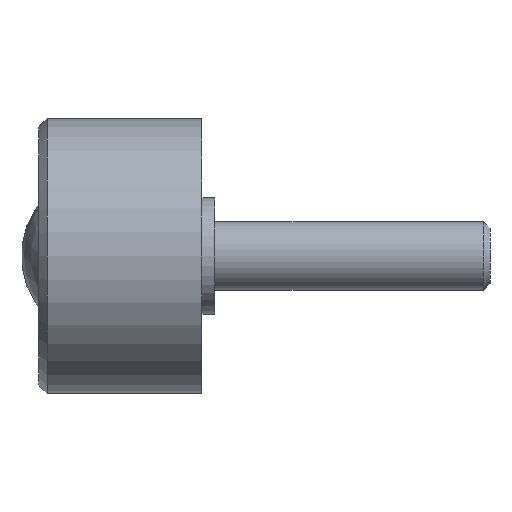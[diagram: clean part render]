
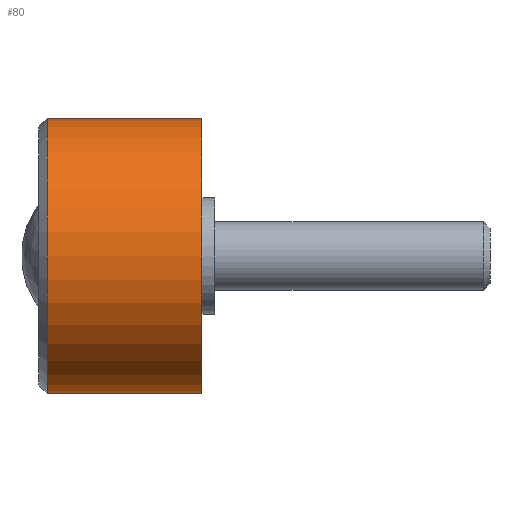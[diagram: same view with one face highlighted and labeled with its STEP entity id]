
A CAD part, left-side view. The second image highlights one B-rep face of the part: STEP entity #80.
In plain terms, the highlighted cylindrical face has radius 16 mm (diameter 32 mm), a full revolution.
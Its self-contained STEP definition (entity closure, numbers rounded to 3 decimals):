
#80 = ADVANCED_FACE( '', ( #105, #106, #107 ), #108, .T. );
#105 = FACE_OUTER_BOUND( '', #146, .T. );
#106 = FACE_BOUND( '', #147, .T. );
#107 = FACE_OUTER_BOUND( '', #148, .T. );
#108 = CYLINDRICAL_SURFACE( '', #149, 16. );
#146 = EDGE_LOOP( '', ( #197 ) );
#147 = EDGE_LOOP( '', ( #198 ) );
#148 = EDGE_LOOP( '', ( #199 ) );
#149 = AXIS2_PLACEMENT_3D( '', #200, #201, #202 );
#197 = ORIENTED_EDGE( '', *, *, #246, .F. );
#198 = ORIENTED_EDGE( '', *, *, #247, .F. );
#199 = ORIENTED_EDGE( '', *, *, #248, .T. );
#200 = CARTESIAN_POINT( '', ( 0., 0., 0. ) );
#201 = DIRECTION( '', ( 0., 1., 0. ) );
#202 = DIRECTION( '', ( 0., 0., -1. ) );
#246 = EDGE_CURVE( '', #265, #265, #266, .T. );
#247 = EDGE_CURVE( '', #267, #267, #268, .T. );
#248 = EDGE_CURVE( '', #269, #269, #270, .T. );
#265 = VERTEX_POINT( '', #291 );
#266 = CIRCLE( '', #292, 16. );
#267 = VERTEX_POINT( '', #293 );
#268 = B_SPLINE_CURVE_WITH_KNOTS( '', 3, ( #294, #295, #296, #297, #298, #299, #300, #301, #302, #303, #304, #305, #306, #307, #308, #309, #310, #311, #312, #313, #314, #315, #316, #317, #318, #319, #320, #321, #322, #323, #324, #325, #326, #327, #328, #329, #330, #331, #332, #333, #334, #335, #336, #337, #338, #339, #340, #341, #342, #343, #344, #345, #346, #347, #348, #349, #350, #351, #352, #353, #354, #355, #356, #357, #358, #359 ), .UNSPECIFIED., .T., .F., ( 2, 2, 2, 2, 2, 2, 2, 2, 2, 2, 2, 2, 2, 2, 2, 2, 2, 2, 2, 2, 2, 2, 2, 2, 2, 2, 2, 2, 2, 2, 2, 2, 2, 2, 2 ), ( -0.001, 0., 0.001, 0.002, 0.002, 0.003, 0.004, 0.005, 0.005, 0.006, 0.007, 0.008, 0.009, 0.009, 0.01, 0.011, 0.012, 0.013, 0.013, 0.014, 0.015, 0.016, 0.016, 0.017, 0.018, 0.019, 0.02, 0.02, 0.021, 0.022, 0.023, 0.024, 0.024, 0.025, 0.026 ), .UNSPECIFIED. );
#269 = VERTEX_POINT( '', #360 );
#270 = CIRCLE( '', #361, 16. );
#291 = CARTESIAN_POINT( '', ( 0., 1.5, -16. ) );
#292 = AXIS2_PLACEMENT_3D( '', #387, #388, #389 );
#293 = CARTESIAN_POINT( '', ( 15.492, 12.5, 4. ) );
#294 = CARTESIAN_POINT( '', ( 15.492, 12.765, 4. ) );
#295 = CARTESIAN_POINT( '', ( 15.492, 12.235, 4. ) );
#296 = CARTESIAN_POINT( '', ( 15.499, 11.974, 3.974 ) );
#297 = CARTESIAN_POINT( '', ( 15.525, 11.461, 3.872 ) );
#298 = CARTESIAN_POINT( '', ( 15.544, 11.207, 3.794 ) );
#299 = CARTESIAN_POINT( '', ( 15.592, 10.723, 3.593 ) );
#300 = CARTESIAN_POINT( '', ( 15.62, 10.493, 3.47 ) );
#301 = CARTESIAN_POINT( '', ( 15.682, 10.06, 3.18 ) );
#302 = CARTESIAN_POINT( '', ( 15.715, 9.855, 3.012 ) );
#303 = CARTESIAN_POINT( '', ( 15.781, 9.488, 2.644 ) );
#304 = CARTESIAN_POINT( '', ( 15.814, 9.322, 2.444 ) );
#305 = CARTESIAN_POINT( '', ( 15.875, 9.03, 2.007 ) );
#306 = CARTESIAN_POINT( '', ( 15.903, 8.906, 1.776 ) );
#307 = CARTESIAN_POINT( '', ( 15.949, 8.706, 1.295 ) );
#308 = CARTESIAN_POINT( '', ( 15.968, 8.629, 1.042 ) );
#309 = CARTESIAN_POINT( '', ( 15.993, 8.526, 0.525 ) );
#310 = CARTESIAN_POINT( '', ( 16., 8.5, 0.265 ) );
#311 = CARTESIAN_POINT( '', ( 16., 8.5, -0.26 ) );
#312 = CARTESIAN_POINT( '', ( 15.993, 8.526, -0.526 ) );
#313 = CARTESIAN_POINT( '', ( 15.968, 8.629, -1.04 ) );
#314 = CARTESIAN_POINT( '', ( 15.95, 8.704, -1.29 ) );
#315 = CARTESIAN_POINT( '', ( 15.903, 8.906, -1.775 ) );
#316 = CARTESIAN_POINT( '', ( 15.875, 9.031, -2.008 ) );
#317 = CARTESIAN_POINT( '', ( 15.814, 9.32, -2.44 ) );
#318 = CARTESIAN_POINT( '', ( 15.781, 9.486, -2.643 ) );
#319 = CARTESIAN_POINT( '', ( 15.715, 9.857, -3.014 ) );
#320 = CARTESIAN_POINT( '', ( 15.682, 10.058, -3.178 ) );
#321 = CARTESIAN_POINT( '', ( 15.62, 10.49, -3.468 ) );
#322 = CARTESIAN_POINT( '', ( 15.592, 10.724, -3.594 ) );
#323 = CARTESIAN_POINT( '', ( 15.544, 11.207, -3.794 ) );
#324 = CARTESIAN_POINT( '', ( 15.525, 11.456, -3.87 ) );
#325 = CARTESIAN_POINT( '', ( 15.499, 11.971, -3.974 ) );
#326 = CARTESIAN_POINT( '', ( 15.492, 12.237, -4. ) );
#327 = CARTESIAN_POINT( '', ( 15.492, 12.76, -4. ) );
#328 = CARTESIAN_POINT( '', ( 15.499, 13.021, -3.975 ) );
#329 = CARTESIAN_POINT( '', ( 15.525, 13.541, -3.871 ) );
#330 = CARTESIAN_POINT( '', ( 15.544, 13.791, -3.795 ) );
#331 = CARTESIAN_POINT( '', ( 15.591, 14.273, -3.595 ) );
#332 = CARTESIAN_POINT( '', ( 15.62, 14.507, -3.47 ) );
#333 = CARTESIAN_POINT( '', ( 15.682, 14.941, -3.18 ) );
#334 = CARTESIAN_POINT( '', ( 15.714, 15.142, -3.015 ) );
#335 = CARTESIAN_POINT( '', ( 15.781, 15.511, -2.646 ) );
#336 = CARTESIAN_POINT( '', ( 15.814, 15.679, -2.442 ) );
#337 = CARTESIAN_POINT( '', ( 15.875, 15.968, -2.01 ) );
#338 = CARTESIAN_POINT( '', ( 15.903, 16.092, -1.78 ) );
#339 = CARTESIAN_POINT( '', ( 15.949, 16.294, -1.294 ) );
#340 = CARTESIAN_POINT( '', ( 15.968, 16.371, -1.042 ) );
#341 = CARTESIAN_POINT( '', ( 15.993, 16.473, -0.53 ) );
#342 = CARTESIAN_POINT( '', ( 16., 16.5, -0.266 ) );
#343 = CARTESIAN_POINT( '', ( 16., 16.5, 0.262 ) );
#344 = CARTESIAN_POINT( '', ( 15.994, 16.474, 0.522 ) );
#345 = CARTESIAN_POINT( '', ( 15.968, 16.372, 1.036 ) );
#346 = CARTESIAN_POINT( '', ( 15.95, 16.295, 1.291 ) );
#347 = CARTESIAN_POINT( '', ( 15.903, 16.095, 1.774 ) );
#348 = CARTESIAN_POINT( '', ( 15.876, 15.972, 2.004 ) );
#349 = CARTESIAN_POINT( '', ( 15.814, 15.68, 2.44 ) );
#350 = CARTESIAN_POINT( '', ( 15.781, 15.514, 2.643 ) );
#351 = CARTESIAN_POINT( '', ( 15.715, 15.147, 3.01 ) );
#352 = CARTESIAN_POINT( '', ( 15.682, 14.944, 3.177 ) );
#353 = CARTESIAN_POINT( '', ( 15.62, 14.508, 3.469 ) );
#354 = CARTESIAN_POINT( '', ( 15.592, 14.279, 3.592 ) );
#355 = CARTESIAN_POINT( '', ( 15.544, 13.797, 3.793 ) );
#356 = CARTESIAN_POINT( '', ( 15.525, 13.542, 3.871 ) );
#357 = CARTESIAN_POINT( '', ( 15.499, 13.027, 3.974 ) );
#358 = CARTESIAN_POINT( '', ( 15.492, 12.765, 4. ) );
#359 = CARTESIAN_POINT( '', ( 15.492, 12.235, 4. ) );
#360 = CARTESIAN_POINT( '', ( 0., 19.5, -16. ) );
#361 = AXIS2_PLACEMENT_3D( '', #390, #391, #392 );
#387 = CARTESIAN_POINT( '', ( 0., 1.5, 0. ) );
#388 = DIRECTION( '', ( 0., -1., 0. ) );
#389 = DIRECTION( '', ( 0., 0., -1. ) );
#390 = CARTESIAN_POINT( '', ( 0., 19.5, 0. ) );
#391 = DIRECTION( '', ( 0., -1., 0. ) );
#392 = DIRECTION( '', ( 0., 0., -1. ) );
